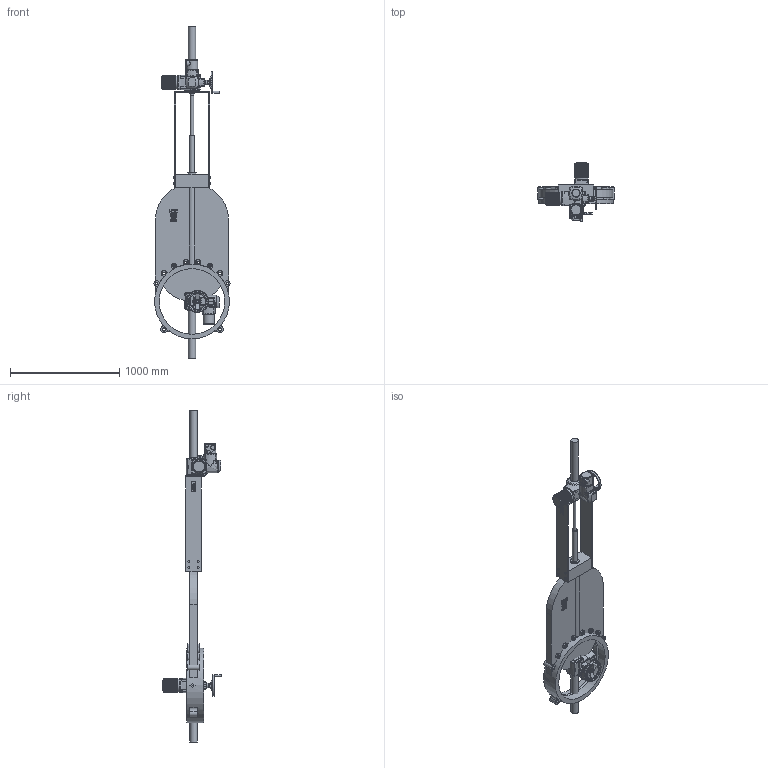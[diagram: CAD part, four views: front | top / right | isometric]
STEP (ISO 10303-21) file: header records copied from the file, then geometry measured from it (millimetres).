
FILE_DESCRIPTION( ( 'Unknown' ), '1' );
FILE_NAME( 'J:/Muud/ROOTSI BPS 3D vidinad/Nugasiibrid/Knife gate valve with electric actuator BPS/STEP formaat/BPS 2010600E knife gate valve DN600.stp', 'Unknown', ( 'Unknown' ), ( 'Unknown' ), 'PSStep 10.1', 'Unknown', ' ' );
FILE_SCHEMA( ( 'AUTOMOTIVE_DESIGN { 1 0 10303 214 1 1 1 1 }' ) );
Length unit declared in the file: millimetre
Products named in the file (3): Assem1; Knife gate valve for electric drive DN600 BPS; AUMA electric actuator sa10.1
Bounding box: 695.94 x 535.9 x 3036 mm (x, y, z)
Volume: 139549759.8 mm3; surface area: 7451842.3 mm2
Topology: 4 solids, 4 shells, 2698 faces, 6596 edges, 4166 vertices
Faces by surface type: extrusion 950, plane 680, cylinder 470, bspline 366, torus 110, cone 76, sphere 46
Full cylindrical faces by diameter (mm): 4.917 x8, 8.376 x8, 20 x4, 23.752 x16, 24 x2, 25 x2, 30 x14, 38 x2, 40 x2, 45 x2, 45.5 x2, 48 x4, 68 x2, 70 x2, 80 x2, 111.5 x22, 120.5 x20, 121 x2, 125 x2, 200 x2, 600 x4, 684 x2
Entity records: 81643 total; most frequent: CARTESIAN_POINT 42292, ORIENTED_EDGE 6226, DIRECTION 4541, EDGE_CURVE 3113, VERTEX_POINT 2045, VECTOR 1779, EDGE_LOOP 1648, B_SPLINE_CURVE_WITH_KNOTS 1591
